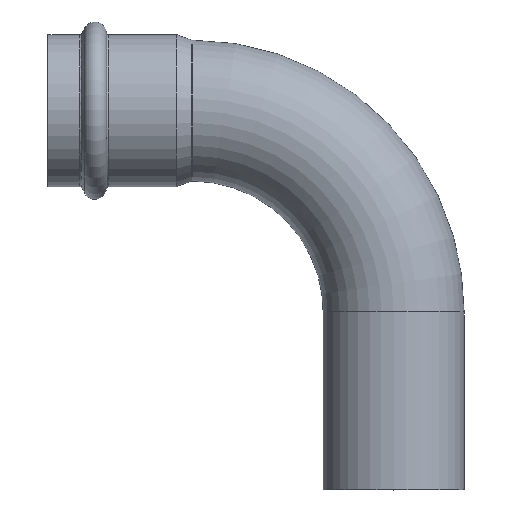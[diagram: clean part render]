
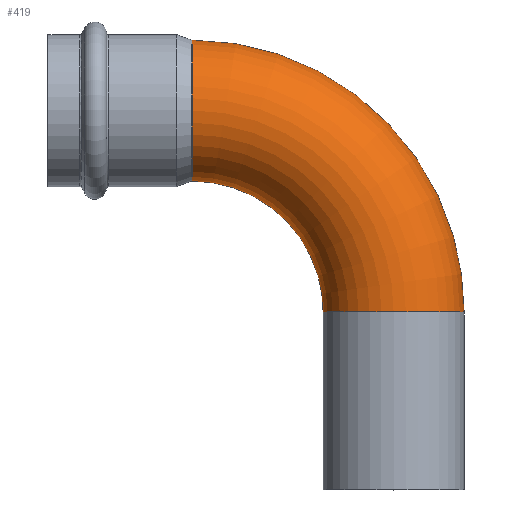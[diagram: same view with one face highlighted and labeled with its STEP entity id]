
A CAD part, top view. The second image highlights one B-rep face of the part: STEP entity #419.
In plain terms, the highlighted toroidal (fillet/blend) face has major radius 60 mm and minor radius 21 mm.
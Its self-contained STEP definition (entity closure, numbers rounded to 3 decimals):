
#388=CARTESIAN_POINT('',(60.,-60.,-21.0));
#389=VERTEX_POINT('',#388);
#390=CARTESIAN_POINT('',(60.,-60.,0.0));
#391=DIRECTION('',(0.0,1.0,0.0));
#392=DIRECTION('',(0.0,0.0,1.0));
#393=AXIS2_PLACEMENT_3D('',#390,#391,#392);
#394=CIRCLE('',#393,21.0);
#395=EDGE_CURVE('',#389,#389,#394,.T.);
#400=CARTESIAN_POINT('',(0.,-60.0,0.0));
#401=DIRECTION('',(0.0,0.0,-1.0));
#402=DIRECTION('',(-1.0,0.0,0.0));
#403=AXIS2_PLACEMENT_3D('',#400,#401,#402);
#404=TOROIDAL_SURFACE('',#403,60.0,21.0);
#405=ORIENTED_EDGE('',*,*,#395,.T.);
#406=EDGE_LOOP('',(#405));
#407=FACE_OUTER_BOUND('',#406,.T.);
#408=CARTESIAN_POINT('',(0.,21.0,0.0));
#409=VERTEX_POINT('',#408);
#410=CARTESIAN_POINT('',(0.,0.,0.0));
#411=DIRECTION('',(1.0,0.0,0.0));
#412=DIRECTION('',(0.0,1.0,0.0));
#413=AXIS2_PLACEMENT_3D('',#410,#411,#412);
#414=CIRCLE('',#413,21.0);
#415=EDGE_CURVE('',#409,#409,#414,.T.);
#416=ORIENTED_EDGE('',*,*,#415,.T.);
#417=EDGE_LOOP('',(#416));
#418=FACE_BOUND('',#417,.T.);
#419=ADVANCED_FACE('',(#407,#418),#404,.T.);
